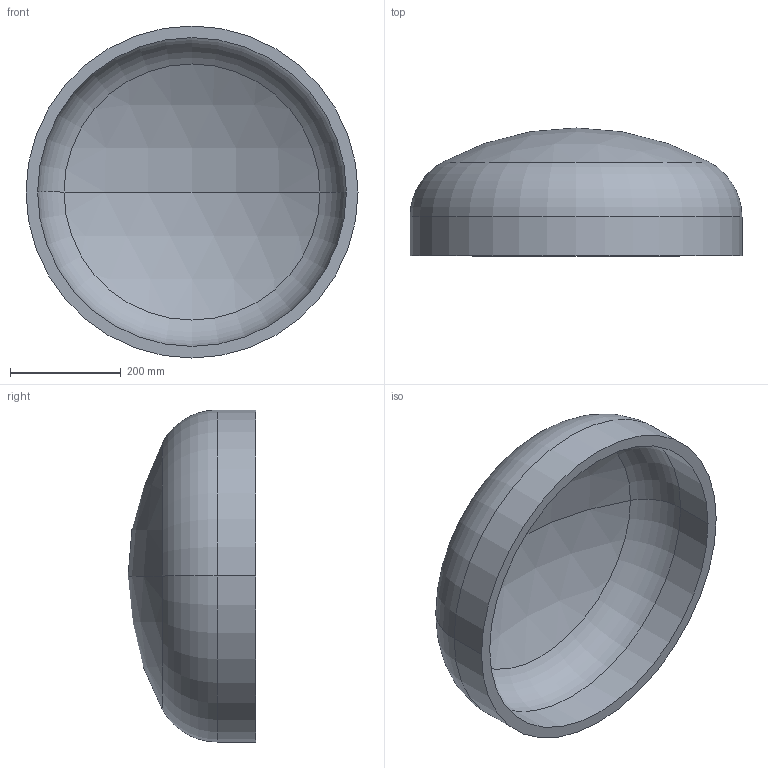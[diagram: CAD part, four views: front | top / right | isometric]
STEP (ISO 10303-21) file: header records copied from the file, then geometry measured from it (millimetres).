
FILE_DESCRIPTION (( 'STEP AP203' ), '1' );
FILE_NAME ('DIN 28013 Korbbogenform_-_Boden DIN 28013 - 600 x 70 - I - s=21.step', '2016-07-01T07:58:24', ( '' ), ( '' ), 'SwSTEP 2.0', 'SolidWorks 2013', '' );
FILE_SCHEMA (( 'CONFIG_CONTROL_DESIGN' ));
Length unit declared in the file: millimetre
Products named in the file (1): DIN 28013 Korbbogenform_-_Boden DIN 28013 - 600 x 70 - I - s=21
Bounding box: 600 x 231.04 x 600 mm (x, y, z)
Volume: 10524465.8 mm3; surface area: 1041452.1 mm2
Topology: 1 solids, 1 shells, 13 faces, 24 edges, 14 vertices
Faces by surface type: torus 4, cylinder 4, sphere 4, plane 1
Entity records: 407 total; most frequent: DIRECTION 72, CARTESIAN_POINT 52, ORIENTED_EDGE 48, AXIS2_PLACEMENT_3D 34, EDGE_CURVE 24, CIRCLE 20, EDGE_LOOP 14, VERTEX_POINT 14
